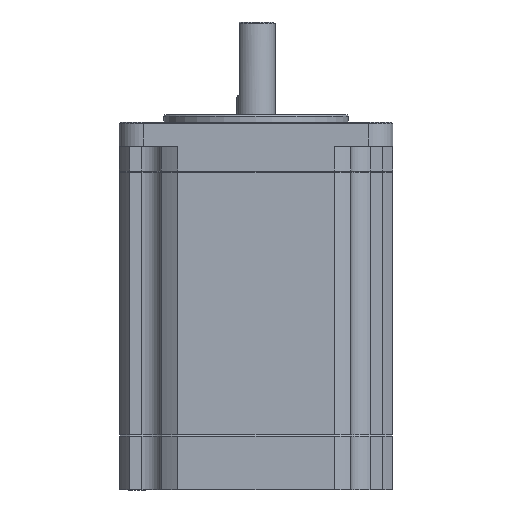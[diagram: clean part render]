
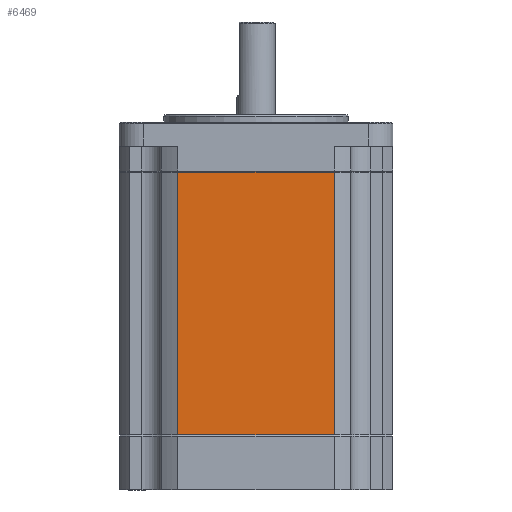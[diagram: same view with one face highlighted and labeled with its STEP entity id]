
A CAD part, front view. The second image highlights one B-rep face of the part: STEP entity #6469.
In plain terms, the highlighted planar face has unit normal (0, -1, 0).
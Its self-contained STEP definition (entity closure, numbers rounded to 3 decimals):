
#403 = CARTESIAN_POINT ( 'NONE',  ( -16.156, -28.2, -54.05 ) ) ;
#676 = EDGE_CURVE ( 'NONE', #15487, #5742, #12501, .T. ) ;
#1397 = VECTOR ( 'NONE', #2131, 1000. ) ;
#1691 = CARTESIAN_POINT ( 'NONE',  ( 16.156, -28.2, 0. ) ) ;
#2131 = DIRECTION ( 'NONE',  ( -1., 0., 0. ) ) ;
#2773 = ORIENTED_EDGE ( 'NONE', *, *, #676, .F. ) ;
#2850 = CARTESIAN_POINT ( 'NONE',  ( -16.156, -28.2, -54.05 ) ) ;
#3191 = CARTESIAN_POINT ( 'NONE',  ( -16.156, -28.2, -54.05 ) ) ;
#3429 = EDGE_LOOP ( 'NONE', ( #10691, #2773, #6830, #15396 ) ) ;
#3958 = EDGE_CURVE ( 'NONE', #13303, #5742, #8506, .T. ) ;
#4128 = VECTOR ( 'NONE', #4312, 1000. ) ;
#4312 = DIRECTION ( 'NONE',  ( 1., 0., 0. ) ) ;
#5283 = VECTOR ( 'NONE', #15587, 1000. ) ;
#5393 = CARTESIAN_POINT ( 'NONE',  ( -16.156, -28.2, 0. ) ) ;
#5742 = VERTEX_POINT ( 'NONE', #8949 ) ;
#6469 = ADVANCED_FACE ( 'NONE', ( #8331 ), #7334, .T. ) ;
#6830 = ORIENTED_EDGE ( 'NONE', *, *, #7989, .T. ) ;
#6863 = EDGE_CURVE ( 'NONE', #12716, #13303, #13913, .T. ) ;
#6982 = DIRECTION ( 'NONE',  ( 0., 0., -1. ) ) ;
#7334 = PLANE ( 'NONE',  #9660 ) ;
#7417 = CARTESIAN_POINT ( 'NONE',  ( -16.156, -28.2, 0. ) ) ;
#7790 = VECTOR ( 'NONE', #6982, 1000. ) ;
#7989 = EDGE_CURVE ( 'NONE', #15487, #12716, #16047, .T. ) ;
#8331 = FACE_OUTER_BOUND ( 'NONE', #3429, .T. ) ;
#8506 = LINE ( 'NONE', #17063, #4128 ) ;
#8949 = CARTESIAN_POINT ( 'NONE',  ( 16.156, -28.2, -54.05 ) ) ;
#9660 = AXIS2_PLACEMENT_3D ( 'NONE', #403, #13932, #16702 ) ;
#10691 = ORIENTED_EDGE ( 'NONE', *, *, #3958, .T. ) ;
#11500 = CARTESIAN_POINT ( 'NONE',  ( 16.156, -28.2, -54.05 ) ) ;
#12501 = LINE ( 'NONE', #11500, #7790 ) ;
#12716 = VERTEX_POINT ( 'NONE', #5393 ) ;
#13303 = VERTEX_POINT ( 'NONE', #3191 ) ;
#13913 = LINE ( 'NONE', #2850, #5283 ) ;
#13932 = DIRECTION ( 'NONE',  ( 0., -1., 0. ) ) ;
#15396 = ORIENTED_EDGE ( 'NONE', *, *, #6863, .T. ) ;
#15487 = VERTEX_POINT ( 'NONE', #1691 ) ;
#15587 = DIRECTION ( 'NONE',  ( 0., 0., -1. ) ) ;
#16047 = LINE ( 'NONE', #7417, #1397 ) ;
#16702 = DIRECTION ( 'NONE',  ( 0., 0., -1. ) ) ;
#17063 = CARTESIAN_POINT ( 'NONE',  ( 0., -28.2, -54.05 ) ) ;
